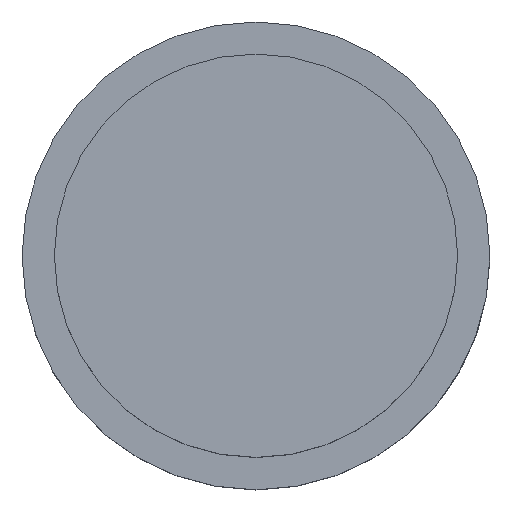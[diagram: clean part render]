
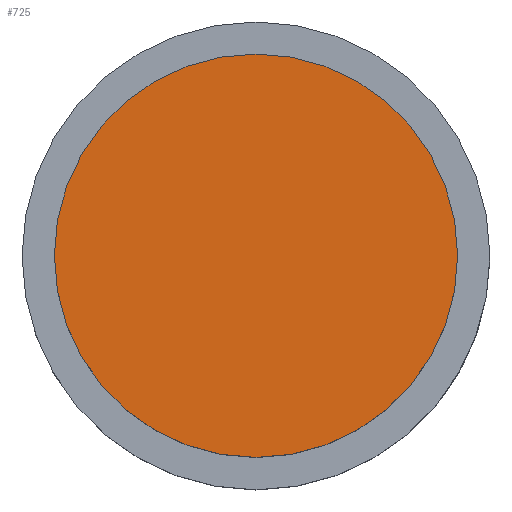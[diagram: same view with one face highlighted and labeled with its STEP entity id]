
A CAD part, top view. The second image highlights one B-rep face of the part: STEP entity #725.
In plain terms, the highlighted planar face has unit normal (0, 0, 1).
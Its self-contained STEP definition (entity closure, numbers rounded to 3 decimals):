
#288 = CYLINDRICAL_SURFACE('',#289,2.5);
#289 = AXIS2_PLACEMENT_3D('',#290,#291,#292);
#290 = CARTESIAN_POINT('',(0.,-13.,12.15));
#291 = DIRECTION('',(-0.,-0.,-1.));
#292 = DIRECTION('',(1.,0.,0.));
#675 = VERTEX_POINT('',#676);
#676 = CARTESIAN_POINT('',(2.5,-13.,13.4));
#697 = EDGE_CURVE('',#675,#675,#698,.T.);
#698 = SURFACE_CURVE('',#699,(#704,#711),.PCURVE_S1.);
#699 = CIRCLE('',#700,2.5);
#700 = AXIS2_PLACEMENT_3D('',#701,#702,#703);
#701 = CARTESIAN_POINT('',(0.,-13.,13.4));
#702 = DIRECTION('',(0.,0.,1.));
#703 = DIRECTION('',(1.,0.,0.));
#704 = PCURVE('',#288,#705);
#705 = DEFINITIONAL_REPRESENTATION('',(#706),#710);
#706 = LINE('',#707,#708);
#707 = CARTESIAN_POINT('',(-0.,-1.25));
#708 = VECTOR('',#709,1.);
#709 = DIRECTION('',(-1.,0.));
#710 = ( GEOMETRIC_REPRESENTATION_CONTEXT(2) 
PARAMETRIC_REPRESENTATION_CONTEXT() REPRESENTATION_CONTEXT('2D SPACE',''
  ) );
#711 = PCURVE('',#712,#717);
#712 = PLANE('',#713);
#713 = AXIS2_PLACEMENT_3D('',#714,#715,#716);
#714 = CARTESIAN_POINT('',(0.,-13.,13.4));
#715 = DIRECTION('',(0.,0.,1.));
#716 = DIRECTION('',(1.,0.,-0.));
#717 = DEFINITIONAL_REPRESENTATION('',(#718),#722);
#718 = CIRCLE('',#719,2.5);
#719 = AXIS2_PLACEMENT_2D('',#720,#721);
#720 = CARTESIAN_POINT('',(0.,0.));
#721 = DIRECTION('',(1.,0.));
#722 = ( GEOMETRIC_REPRESENTATION_CONTEXT(2) 
PARAMETRIC_REPRESENTATION_CONTEXT() REPRESENTATION_CONTEXT('2D SPACE',''
  ) );
#725 = ADVANCED_FACE('',(#726),#712,.T.);
#726 = FACE_BOUND('',#727,.T.);
#727 = EDGE_LOOP('',(#728));
#728 = ORIENTED_EDGE('',*,*,#697,.T.);
